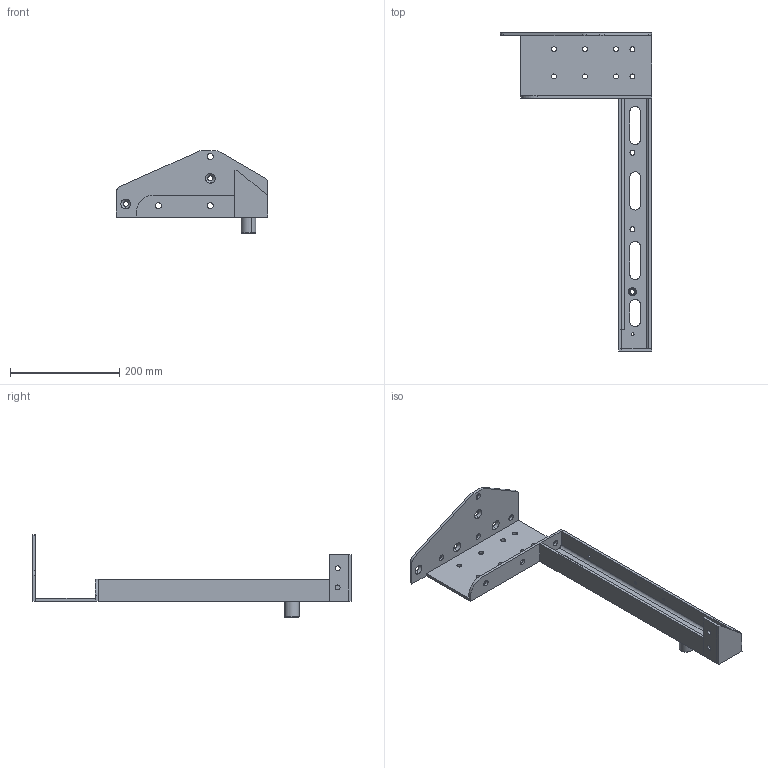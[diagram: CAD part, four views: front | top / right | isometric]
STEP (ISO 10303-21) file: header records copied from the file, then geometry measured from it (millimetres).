
FILE_DESCRIPTION (( 'STEP AP214' ), '1' );
FILE_NAME ('贅斃.301343.014 栺鍣罻.STEP', '2024-04-17T12:33:48', ( '' ), ( '' ), 'SwSTEP 2.0', 'SolidWorks 2019', '' );
FILE_SCHEMA (( 'AUTOMOTIVE_DESIGN' ));
Length unit declared in the file: millimetre
Products named in the file (8): ÂØÀÅ.741214.034 Îïîðà_«¥¢ ï; 贅斃.713361.002 鎗鵻罻; 贅斃.301343.014 栺鍣罻; 贅斃.741124.118 砑僔蠂縺; 仑琅.741114.020 署赅; 贅斃.741121.108 昜闉趌+10; 贅斃.741124.119 毳罻_+10; 贅斃.746212.002 栺鍣罻
Assembly tree (7 placements, depth 2):
  贅斃.301343.014 栺鍣罻
    ÂØÀÅ.741214.034 Îïîðà_«¥¢ ï
    贅斃.746212.002 栺鍣罻
    贅斃.741124.119 毳罻_+10
    贅斃.741121.108 昜闉趌+10
    贅斃.741124.118 砑僔蠂縺
    仑琅.741114.020 署赅
    贅斃.713361.002 鎗鵻罻
Bounding box: 277 x 584 x 152 mm (x, y, z)
Volume: 620058.6 mm3; surface area: 268200.1 mm2
Topology: 7 solids, 7 shells, 161 faces, 412 edges, 266 vertices
Faces by surface type: cylinder 79, plane 56, cone 26
Entity records: 5520 total; most frequent: DIRECTION 938, CARTESIAN_POINT 849, ORIENTED_EDGE 824, EDGE_CURVE 412, AXIS2_PLACEMENT_3D 355, VERTEX_POINT 266, EDGE_LOOP 230, VECTOR 228
